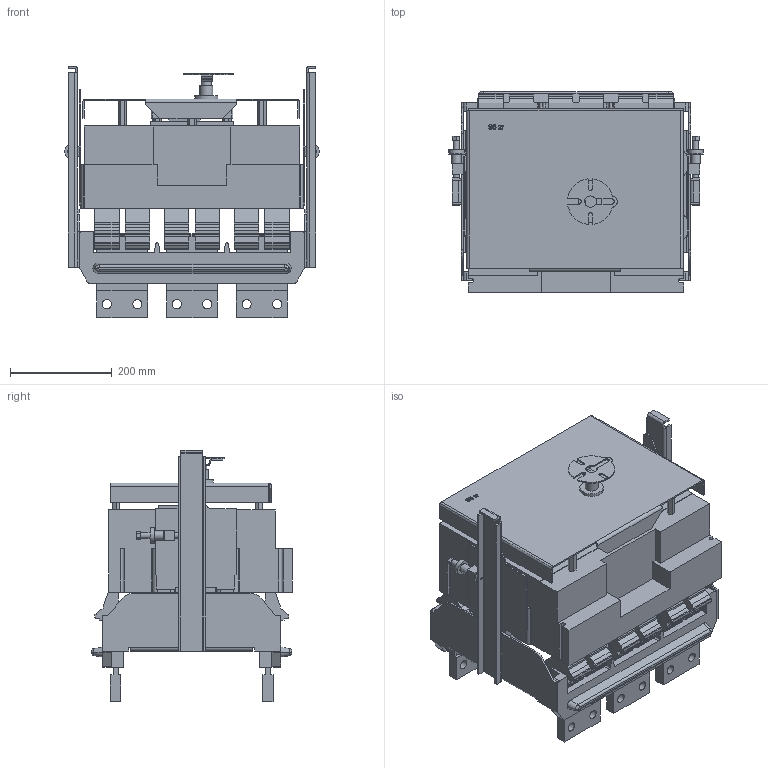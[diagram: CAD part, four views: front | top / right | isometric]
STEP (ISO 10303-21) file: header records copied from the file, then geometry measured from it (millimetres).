
FILE_DESCRIPTION (( 'STEP AP214' ), '1' );
FILE_NAME ('ÂÀ 56-43 âûäâèæíîå èñïîëíåíèå ñ ìåõàíè÷åñêèì ïðèâîäîì 1600À.STEP', '2023-02-13T06:45:57', ( '' ), ( '' ), 'SwSTEP 2.0', 'SolidWorks 2018', '' );
FILE_SCHEMA (( 'AUTOMOTIVE_DESIGN' ));
Length unit declared in the file: millimetre
Products named in the file (1): ÂÀ 56-43 âûäâèæíîå èñïîëíåíèå ñ ìåõàíè÷åñêèì ïðèâîäîì 1600À
Bounding box: 501 x 395 x 494.3 mm (x, y, z)
Volume: 30195237.8 mm3; surface area: 2048760.3 mm2
Topology: 2 solids, 2 shells, 1234 faces, 3752 edges, 2501 vertices
Faces by surface type: plane 879, cylinder 345, bspline 8, cone 2
Full cylindrical faces by diameter (mm): 12 x6, 12.2 x2, 13.2 x4, 18 x14, 20 x1, 25.7 x1, 30 x2, 45.6 x1
Entity records: 42511 total; most frequent: CARTESIAN_POINT 8277, ORIENTED_EDGE 7404, DIRECTION 6825, EDGE_CURVE 3702, VECTOR 2907, LINE 2907, VERTEX_POINT 2484, AXIS2_PLACEMENT_3D 1959
